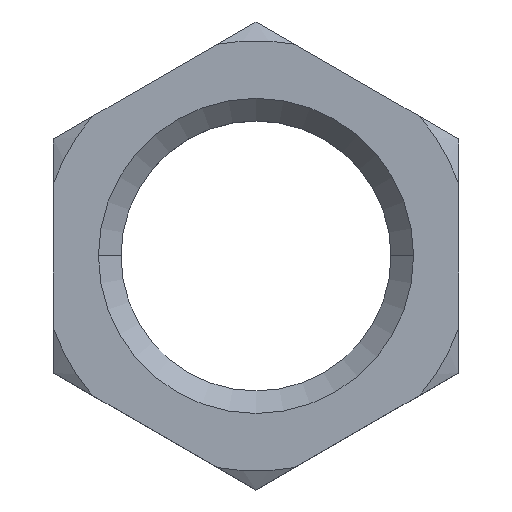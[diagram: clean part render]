
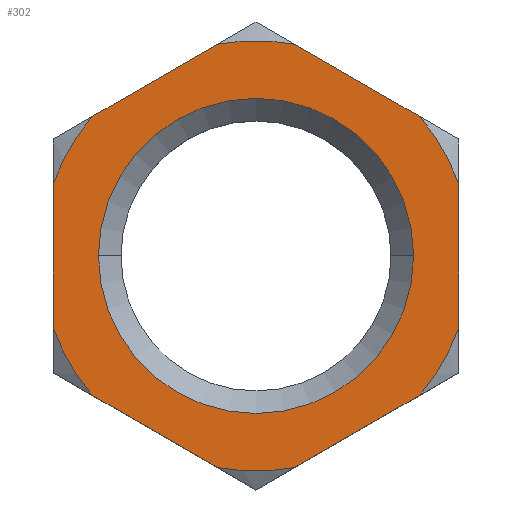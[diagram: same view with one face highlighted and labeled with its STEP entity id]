
A CAD part, top view. The second image highlights one B-rep face of the part: STEP entity #302.
In plain terms, the highlighted planar face has unit normal (0, 0, 1).
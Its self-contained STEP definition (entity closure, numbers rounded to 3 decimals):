
#13 = DIRECTION ( 'NONE',  ( 0., 0., -1. ) ) ;
#16 = CIRCLE ( 'NONE', #687, 14.338 ) ;
#22 = AXIS2_PLACEMENT_3D ( 'NONE', #131, #611, #280 ) ;
#32 = AXIS2_PLACEMENT_3D ( 'NONE', #779, #165, #857 ) ;
#45 = VERTEX_POINT ( 'NONE', #57 ) ;
#49 = VERTEX_POINT ( 'NONE', #277 ) ;
#51 = DIRECTION ( 'NONE',  ( -1., 0., 0. ) ) ;
#52 = CARTESIAN_POINT ( 'NONE',  ( 13.5, 7.794, 4.21 ) ) ;
#57 = CARTESIAN_POINT ( 'NONE',  ( -13.5, 4.831, 4.21 ) ) ;
#60 = CIRCLE ( 'NONE', #73, 10.5 ) ;
#73 = AXIS2_PLACEMENT_3D ( 'NONE', #590, #592, #791 ) ;
#75 = ORIENTED_EDGE ( 'NONE', *, *, #140, .T. ) ;
#84 = CIRCLE ( 'NONE', #32, 14.338 ) ;
#92 = AXIS2_PLACEMENT_3D ( 'NONE', #850, #640, #220 ) ;
#94 = EDGE_CURVE ( 'NONE', #481, #697, #768, .T. ) ;
#100 = VERTEX_POINT ( 'NONE', #139 ) ;
#113 = DIRECTION ( 'NONE',  ( -1., 0., 0. ) ) ;
#116 = LINE ( 'NONE', #351, #514 ) ;
#121 = VECTOR ( 'NONE', #668, 1000. ) ;
#122 = ORIENTED_EDGE ( 'NONE', *, *, #425, .F. ) ;
#131 = CARTESIAN_POINT ( 'NONE',  ( 0., 0., 4.21 ) ) ;
#139 = CARTESIAN_POINT ( 'NONE',  ( 13.5, 4.831, 4.21 ) ) ;
#140 = EDGE_CURVE ( 'NONE', #45, #655, #310, .T. ) ;
#153 = EDGE_LOOP ( 'NONE', ( #318, #401 ) ) ;
#156 = CARTESIAN_POINT ( 'NONE',  ( 13.5, -4.831, 4.21 ) ) ;
#165 = DIRECTION ( 'NONE',  ( 0., 0., -1. ) ) ;
#169 = EDGE_CURVE ( 'NONE', #423, #697, #84, .T. ) ;
#185 = CARTESIAN_POINT ( 'NONE',  ( 2.566, -14.107, 4.21 ) ) ;
#194 = CIRCLE ( 'NONE', #22, 10.5 ) ;
#205 = DIRECTION ( 'NONE',  ( -0.866, 0.5, 0. ) ) ;
#220 = DIRECTION ( 'NONE',  ( 1., 0., 0. ) ) ;
#233 = ORIENTED_EDGE ( 'NONE', *, *, #94, .T. ) ;
#244 = LINE ( 'NONE', #544, #588 ) ;
#263 = EDGE_CURVE ( 'NONE', #755, #366, #244, .T. ) ;
#268 = CARTESIAN_POINT ( 'NONE',  ( 0., -15.588, 4.21 ) ) ;
#276 = CARTESIAN_POINT ( 'NONE',  ( -2.566, 14.107, 4.21 ) ) ;
#277 = CARTESIAN_POINT ( 'NONE',  ( 2.566, 14.107, 4.21 ) ) ;
#280 = DIRECTION ( 'NONE',  ( 1., 0., 0. ) ) ;
#282 = CARTESIAN_POINT ( 'NONE',  ( 0., 0., 4.21 ) ) ;
#302 = ADVANCED_FACE ( 'NONE', ( #389, #832 ), #770, .T. ) ;
#306 = AXIS2_PLACEMENT_3D ( 'NONE', #372, #13, #569 ) ;
#310 = LINE ( 'NONE', #683, #905 ) ;
#318 = ORIENTED_EDGE ( 'NONE', *, *, #436, .T. ) ;
#336 = ORIENTED_EDGE ( 'NONE', *, *, #648, .F. ) ;
#341 = VERTEX_POINT ( 'NONE', #586 ) ;
#351 = CARTESIAN_POINT ( 'NONE',  ( -13.5, -7.794, 4.21 ) ) ;
#366 = VERTEX_POINT ( 'NONE', #524 ) ;
#372 = CARTESIAN_POINT ( 'NONE',  ( 0., 0., 4.21 ) ) ;
#379 = ORIENTED_EDGE ( 'NONE', *, *, #263, .T. ) ;
#387 = DIRECTION ( 'NONE',  ( -1., 0., 0. ) ) ;
#389 = FACE_BOUND ( 'NONE', #153, .T. ) ;
#393 = CIRCLE ( 'NONE', #306, 14.338 ) ;
#401 = ORIENTED_EDGE ( 'NONE', *, *, #816, .T. ) ;
#407 = DIRECTION ( 'NONE',  ( 0.866, 0.5, 0. ) ) ;
#423 = VERTEX_POINT ( 'NONE', #156 ) ;
#425 = EDGE_CURVE ( 'NONE', #45, #366, #494, .T. ) ;
#429 = EDGE_CURVE ( 'NONE', #481, #562, #393, .T. ) ;
#436 = EDGE_CURVE ( 'NONE', #631, #341, #60, .T. ) ;
#438 = ORIENTED_EDGE ( 'NONE', *, *, #795, .F. ) ;
#481 = VERTEX_POINT ( 'NONE', #185 ) ;
#483 = CARTESIAN_POINT ( 'NONE',  ( 10.5, 0., 4.21 ) ) ;
#486 = DIRECTION ( 'NONE',  ( 0.866, -0.5, 0. ) ) ;
#494 = CIRCLE ( 'NONE', #894, 14.338 ) ;
#498 = CARTESIAN_POINT ( 'NONE',  ( -10.934, -9.276, 4.21 ) ) ;
#514 = VECTOR ( 'NONE', #486, 1000. ) ;
#521 = CARTESIAN_POINT ( 'NONE',  ( 0., 0., 4.21 ) ) ;
#524 = CARTESIAN_POINT ( 'NONE',  ( -10.934, 9.276, 4.21 ) ) ;
#525 = CARTESIAN_POINT ( 'NONE',  ( 0., 0., 4.21 ) ) ;
#528 = VECTOR ( 'NONE', #205, 1000. ) ;
#535 = CARTESIAN_POINT ( 'NONE',  ( -13.5, -4.831, 4.21 ) ) ;
#540 = CARTESIAN_POINT ( 'NONE',  ( -2.566, -14.107, 4.21 ) ) ;
#544 = CARTESIAN_POINT ( 'NONE',  ( 0., 15.588, 4.21 ) ) ;
#562 = VERTEX_POINT ( 'NONE', #540 ) ;
#569 = DIRECTION ( 'NONE',  ( -1., 0., 0. ) ) ;
#571 = ORIENTED_EDGE ( 'NONE', *, *, #828, .T. ) ;
#586 = CARTESIAN_POINT ( 'NONE',  ( -10.5, 0., 4.21 ) ) ;
#588 = VECTOR ( 'NONE', #878, 1000. ) ;
#590 = CARTESIAN_POINT ( 'NONE',  ( 0., 0., 4.21 ) ) ;
#591 = DIRECTION ( 'NONE',  ( 0., 0., -1. ) ) ;
#592 = DIRECTION ( 'NONE',  ( 0., 0., -1. ) ) ;
#597 = CARTESIAN_POINT ( 'NONE',  ( 0., 0., 4.21 ) ) ;
#611 = DIRECTION ( 'NONE',  ( 0., 0., -1. ) ) ;
#617 = DIRECTION ( 'NONE',  ( 0., -1., 0. ) ) ;
#618 = DIRECTION ( 'NONE',  ( -1., 0., 0. ) ) ;
#621 = DIRECTION ( 'NONE',  ( 0., 0., -1. ) ) ;
#631 = VERTEX_POINT ( 'NONE', #483 ) ;
#640 = DIRECTION ( 'NONE',  ( 0., 0., 1. ) ) ;
#648 = EDGE_CURVE ( 'NONE', #868, #655, #725, .T. ) ;
#655 = VERTEX_POINT ( 'NONE', #535 ) ;
#658 = EDGE_CURVE ( 'NONE', #755, #49, #16, .T. ) ;
#659 = DIRECTION ( 'NONE',  ( 0., 0., -1. ) ) ;
#668 = DIRECTION ( 'NONE',  ( 0., 1., 0. ) ) ;
#683 = CARTESIAN_POINT ( 'NONE',  ( -13.5, 7.794, 4.21 ) ) ;
#685 = CARTESIAN_POINT ( 'NONE',  ( 10.934, 9.276, 4.21 ) ) ;
#687 = AXIS2_PLACEMENT_3D ( 'NONE', #597, #591, #113 ) ;
#697 = VERTEX_POINT ( 'NONE', #802 ) ;
#701 = EDGE_CURVE ( 'NONE', #423, #100, #886, .T. ) ;
#703 = ORIENTED_EDGE ( 'NONE', *, *, #658, .F. ) ;
#707 = ORIENTED_EDGE ( 'NONE', *, *, #701, .T. ) ;
#725 = CIRCLE ( 'NONE', #822, 14.338 ) ;
#737 = CARTESIAN_POINT ( 'NONE',  ( 13.5, -7.794, 4.21 ) ) ;
#755 = VERTEX_POINT ( 'NONE', #276 ) ;
#760 = VERTEX_POINT ( 'NONE', #685 ) ;
#764 = EDGE_CURVE ( 'NONE', #868, #562, #116, .T. ) ;
#768 = LINE ( 'NONE', #268, #803 ) ;
#770 = PLANE ( 'NONE',  #92 ) ;
#773 = AXIS2_PLACEMENT_3D ( 'NONE', #282, #621, #618 ) ;
#779 = CARTESIAN_POINT ( 'NONE',  ( 0., 0., 4.21 ) ) ;
#791 = DIRECTION ( 'NONE',  ( 1., 0., 0. ) ) ;
#795 = EDGE_CURVE ( 'NONE', #760, #100, #851, .T. ) ;
#802 = CARTESIAN_POINT ( 'NONE',  ( 10.934, -9.276, 4.21 ) ) ;
#803 = VECTOR ( 'NONE', #407, 1000. ) ;
#816 = EDGE_CURVE ( 'NONE', #341, #631, #194, .T. ) ;
#822 = AXIS2_PLACEMENT_3D ( 'NONE', #525, #884, #51 ) ;
#825 = ORIENTED_EDGE ( 'NONE', *, *, #429, .F. ) ;
#828 = EDGE_CURVE ( 'NONE', #760, #49, #863, .T. ) ;
#829 = ORIENTED_EDGE ( 'NONE', *, *, #764, .T. ) ;
#832 = FACE_OUTER_BOUND ( 'NONE', #901, .T. ) ;
#850 = CARTESIAN_POINT ( 'NONE',  ( 0., 0., 4.21 ) ) ;
#851 = CIRCLE ( 'NONE', #773, 14.338 ) ;
#857 = DIRECTION ( 'NONE',  ( -1., 0., 0. ) ) ;
#863 = LINE ( 'NONE', #52, #528 ) ;
#868 = VERTEX_POINT ( 'NONE', #498 ) ;
#878 = DIRECTION ( 'NONE',  ( -0.866, -0.5, 0. ) ) ;
#883 = ORIENTED_EDGE ( 'NONE', *, *, #169, .F. ) ;
#884 = DIRECTION ( 'NONE',  ( 0., 0., -1. ) ) ;
#886 = LINE ( 'NONE', #737, #121 ) ;
#894 = AXIS2_PLACEMENT_3D ( 'NONE', #521, #659, #387 ) ;
#901 = EDGE_LOOP ( 'NONE', ( #883, #707, #438, #571, #703, #379, #122, #75, #336, #829, #825, #233 ) ) ;
#905 = VECTOR ( 'NONE', #617, 1000. ) ;
